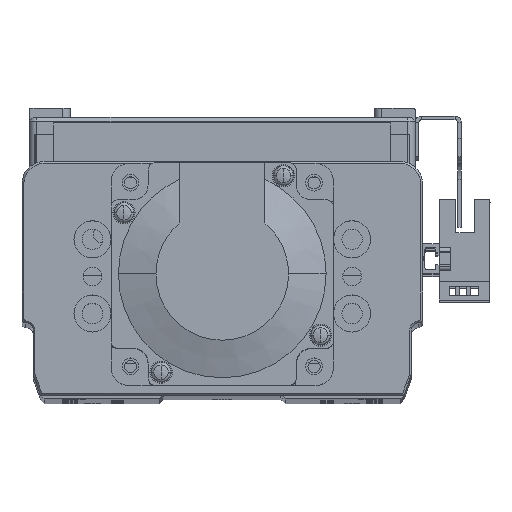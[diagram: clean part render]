
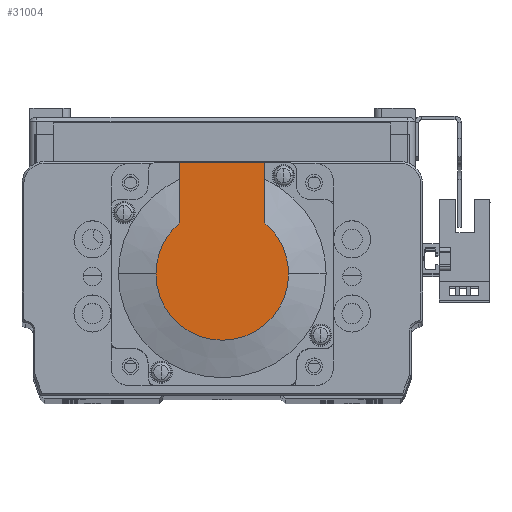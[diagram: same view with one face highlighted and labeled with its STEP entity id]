
A CAD part, top view. The second image highlights one B-rep face of the part: STEP entity #31004.
In plain terms, the highlighted planar face has unit normal (0, 0, 1) as drawn and (-1, 0, 0) by its records, which use the part's own axes.
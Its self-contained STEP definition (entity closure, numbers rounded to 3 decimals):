
#7751 = ORIENTED_EDGE ( 'NONE', *, *, #10464, .T. ) ;
#7772 = ORIENTED_EDGE ( 'NONE', *, *, #53772, .F. ) ;
#7778 = ORIENTED_EDGE ( 'NONE', *, *, #53799, .F. ) ;
#7780 = ORIENTED_EDGE ( 'NONE', *, *, #10282, .T. ) ;
#7791 = ORIENTED_EDGE ( 'NONE', *, *, #11080, .T. ) ;
#7797 = ORIENTED_EDGE ( 'NONE', *, *, #53798, .T. ) ;
#10282 = EDGE_CURVE ( 'NONE', #32697, #32695, #29045, .T. ) ;
#10464 = EDGE_CURVE ( 'NONE', #32695, #21853, #25914, .T. ) ;
#11080 = EDGE_CURVE ( 'NONE', #21987, #32697, #25717, .T. ) ;
#11508 = AXIS2_PLACEMENT_3D ( 'NONE', #45303, #45294, #45279 ) ;
#11604 = AXIS2_PLACEMENT_3D ( 'NONE', #49529, #49530, #49500 ) ;
#13165 = EDGE_LOOP ( 'NONE', ( #7797, #7791, #7780, #7751, #7772, #7778 ) ) ;
#18630 = AXIS2_PLACEMENT_3D ( 'NONE', #40203, #40227, #40219 ) ;
#21248 = FACE_OUTER_BOUND ( 'NONE', #13165, .T. ) ;
#21853 = VERTEX_POINT ( 'NONE', #29954 ) ;
#21987 = VERTEX_POINT ( 'NONE', #30081 ) ;
#23634 = CARTESIAN_POINT ( 'NONE',  ( -99., 0., 17.881 ) ) ;
#23635 = CARTESIAN_POINT ( 'NONE',  ( -99., 0., -17.881 ) ) ;
#25604 = VECTOR ( 'NONE', #53413, 1000. ) ;
#25608 = LINE ( 'NONE', #53391, #25604 ) ;
#25635 = VECTOR ( 'NONE', #53487, 1000. ) ;
#25637 = LINE ( 'NONE', #53460, #25660 ) ;
#25638 = LINE ( 'NONE', #53491, #25635 ) ;
#25660 = VECTOR ( 'NONE', #53483, 1000. ) ;
#25717 = CIRCLE ( 'NONE', #18630, 17.881 ) ;
#25914 = CIRCLE ( 'NONE', #11604, 17.881 ) ;
#29045 = CIRCLE ( 'NONE', #11508, 17.881 ) ;
#29954 = CARTESIAN_POINT ( 'NONE',  ( -99., 13.735, 11.45 ) ) ;
#30081 = CARTESIAN_POINT ( 'NONE',  ( -99., 13.735, -11.45 ) ) ;
#31004 = ADVANCED_FACE ( 'NONE', ( #21248 ), #33704, .T. ) ;
#31649 = VERTEX_POINT ( 'NONE', #47685 ) ;
#31656 = VERTEX_POINT ( 'NONE', #47694 ) ;
#32695 = VERTEX_POINT ( 'NONE', #23634 ) ;
#32697 = VERTEX_POINT ( 'NONE', #23635 ) ;
#33680 = DIRECTION ( 'NONE',  ( 0., 0., 1. ) ) ;
#33704 = PLANE ( 'NONE',  #37640 ) ;
#33708 = CARTESIAN_POINT ( 'NONE',  ( -99., -8.941, 0. ) ) ;
#33709 = DIRECTION ( 'NONE',  ( -1., 0., 0. ) ) ;
#37640 = AXIS2_PLACEMENT_3D ( 'NONE', #33708, #33709, #33680 ) ;
#40203 = CARTESIAN_POINT ( 'NONE',  ( -99., 0., 0. ) ) ;
#40219 = DIRECTION ( 'NONE',  ( 0., 0., -1. ) ) ;
#40227 = DIRECTION ( 'NONE',  ( -1., 0., 0. ) ) ;
#45279 = DIRECTION ( 'NONE',  ( 0., 0., -1. ) ) ;
#45294 = DIRECTION ( 'NONE',  ( -1., 0., 0. ) ) ;
#45303 = CARTESIAN_POINT ( 'NONE',  ( -99., 0., 0. ) ) ;
#47685 = CARTESIAN_POINT ( 'NONE',  ( -99., 30., -11.45 ) ) ;
#47694 = CARTESIAN_POINT ( 'NONE',  ( -99., 30., 11.45 ) ) ;
#49500 = DIRECTION ( 'NONE',  ( 0., 0., -1. ) ) ;
#49529 = CARTESIAN_POINT ( 'NONE',  ( -99., 0., 0. ) ) ;
#49530 = DIRECTION ( 'NONE',  ( -1., 0., 0. ) ) ;
#53391 = CARTESIAN_POINT ( 'NONE',  ( -99., 0., 11.45 ) ) ;
#53413 = DIRECTION ( 'NONE',  ( 0., -1., 0. ) ) ;
#53460 = CARTESIAN_POINT ( 'NONE',  ( -99., -8.941, -11.45 ) ) ;
#53483 = DIRECTION ( 'NONE',  ( 0., -1., 0. ) ) ;
#53487 = DIRECTION ( 'NONE',  ( 0., 0., 1. ) ) ;
#53491 = CARTESIAN_POINT ( 'NONE',  ( -99., 30., 25. ) ) ;
#53772 = EDGE_CURVE ( 'NONE', #31656, #21853, #25608, .T. ) ;
#53798 = EDGE_CURVE ( 'NONE', #31649, #21987, #25637, .T. ) ;
#53799 = EDGE_CURVE ( 'NONE', #31649, #31656, #25638, .T. ) ;
